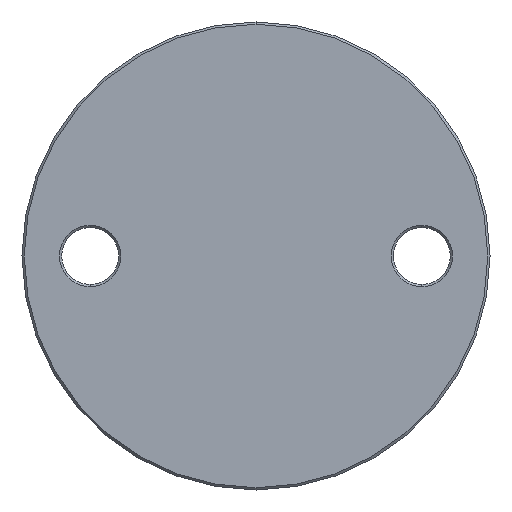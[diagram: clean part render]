
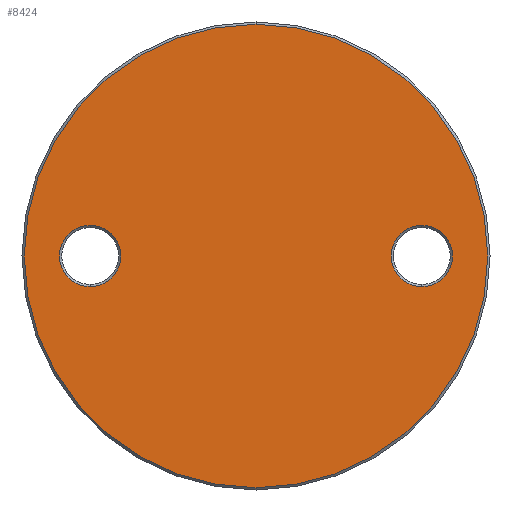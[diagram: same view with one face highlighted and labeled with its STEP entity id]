
A CAD part, front view. The second image highlights one B-rep face of the part: STEP entity #8424.
In plain terms, the highlighted planar face has unit normal (0, -1, 0).
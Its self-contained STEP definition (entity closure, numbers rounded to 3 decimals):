
#260 = VERTEX_POINT ( 'NONE', #4771 ) ;
#498 = VERTEX_POINT ( 'NONE', #11670 ) ;
#575 = DIRECTION ( 'NONE',  ( 0., 0., -1. ) ) ;
#651 = EDGE_CURVE ( 'NONE', #7422, #260, #1919, .T. ) ;
#724 = AXIS2_PLACEMENT_3D ( 'NONE', #1913, #11189, #8269 ) ;
#731 = EDGE_CURVE ( 'NONE', #8633, #3373, #5274, .T. ) ;
#869 = AXIS2_PLACEMENT_3D ( 'NONE', #10414, #9387, #8585 ) ;
#1043 = DIRECTION ( 'NONE',  ( 0., -1., 0. ) ) ;
#1334 = DIRECTION ( 'NONE',  ( 0., 1., 0. ) ) ;
#1356 = CIRCLE ( 'NONE', #869, 6.75 ) ;
#1632 = FACE_BOUND ( 'NONE', #4342, .T. ) ;
#1674 = ORIENTED_EDGE ( 'NONE', *, *, #11764, .T. ) ;
#1913 = CARTESIAN_POINT ( 'NONE',  ( 0., -3., 0. ) ) ;
#1919 = CIRCLE ( 'NONE', #9056, 6.75 ) ;
#2194 = ORIENTED_EDGE ( 'NONE', *, *, #731, .T. ) ;
#3050 = EDGE_LOOP ( 'NONE', ( #8132, #2194 ) ) ;
#3222 = EDGE_LOOP ( 'NONE', ( #1674, #4447 ) ) ;
#3254 = EDGE_CURVE ( 'NONE', #3373, #8633, #6330, .T. ) ;
#3373 = VERTEX_POINT ( 'NONE', #11033 ) ;
#3488 = DIRECTION ( 'NONE',  ( 0., 0., -1. ) ) ;
#3665 = CARTESIAN_POINT ( 'NONE',  ( -36.5, -3., 0. ) ) ;
#4333 = CARTESIAN_POINT ( 'NONE',  ( 0., -3., 51.5 ) ) ;
#4342 = EDGE_LOOP ( 'NONE', ( #11740, #6684 ) ) ;
#4401 = AXIS2_PLACEMENT_3D ( 'NONE', #8658, #1334, #8697 ) ;
#4447 = ORIENTED_EDGE ( 'NONE', *, *, #8220, .T. ) ;
#4771 = CARTESIAN_POINT ( 'NONE',  ( -36.5, -3., -6.75 ) ) ;
#5274 = CIRCLE ( 'NONE', #724, 51. ) ;
#6113 = DIRECTION ( 'NONE',  ( 0., 1., 0. ) ) ;
#6231 = DIRECTION ( 'NONE',  ( 0., 1., 0. ) ) ;
#6250 = VERTEX_POINT ( 'NONE', #9927 ) ;
#6330 = CIRCLE ( 'NONE', #11272, 51. ) ;
#6557 = CARTESIAN_POINT ( 'NONE',  ( 0., -3., 0. ) ) ;
#6684 = ORIENTED_EDGE ( 'NONE', *, *, #651, .T. ) ;
#7038 = PLANE ( 'NONE',  #10998 ) ;
#7141 = DIRECTION ( 'NONE',  ( 0., 0., -1. ) ) ;
#7153 = DIRECTION ( 'NONE',  ( 0., -1., 0. ) ) ;
#7313 = CARTESIAN_POINT ( 'NONE',  ( 0., -3., -51. ) ) ;
#7422 = VERTEX_POINT ( 'NONE', #10764 ) ;
#7439 = CIRCLE ( 'NONE', #10813, 6.75 ) ;
#8132 = ORIENTED_EDGE ( 'NONE', *, *, #3254, .T. ) ;
#8220 = EDGE_CURVE ( 'NONE', #6250, #498, #1356, .T. ) ;
#8269 = DIRECTION ( 'NONE',  ( 0., 0., -1. ) ) ;
#8424 = ADVANCED_FACE ( 'NONE', ( #8965, #1632, #10576 ), #7038, .T. ) ;
#8585 = DIRECTION ( 'NONE',  ( 0., 0., -1. ) ) ;
#8633 = VERTEX_POINT ( 'NONE', #7313 ) ;
#8658 = CARTESIAN_POINT ( 'NONE',  ( -36.5, -3., 0. ) ) ;
#8697 = DIRECTION ( 'NONE',  ( 0., 0., -1. ) ) ;
#8965 = FACE_BOUND ( 'NONE', #3222, .T. ) ;
#9056 = AXIS2_PLACEMENT_3D ( 'NONE', #3665, #6231, #7141 ) ;
#9096 = CIRCLE ( 'NONE', #4401, 6.75 ) ;
#9387 = DIRECTION ( 'NONE',  ( 0., 1., 0. ) ) ;
#9792 = EDGE_CURVE ( 'NONE', #260, #7422, #9096, .T. ) ;
#9927 = CARTESIAN_POINT ( 'NONE',  ( 36.5, -3., 6.75 ) ) ;
#10414 = CARTESIAN_POINT ( 'NONE',  ( 36.5, -3., 0. ) ) ;
#10493 = DIRECTION ( 'NONE',  ( 0., 0., -1. ) ) ;
#10576 = FACE_OUTER_BOUND ( 'NONE', #3050, .T. ) ;
#10764 = CARTESIAN_POINT ( 'NONE',  ( -36.5, -3., 6.75 ) ) ;
#10813 = AXIS2_PLACEMENT_3D ( 'NONE', #11623, #6113, #575 ) ;
#10998 = AXIS2_PLACEMENT_3D ( 'NONE', #4333, #7153, #3488 ) ;
#11033 = CARTESIAN_POINT ( 'NONE',  ( 0., -3., 51. ) ) ;
#11189 = DIRECTION ( 'NONE',  ( 0., -1., 0. ) ) ;
#11272 = AXIS2_PLACEMENT_3D ( 'NONE', #6557, #1043, #10493 ) ;
#11623 = CARTESIAN_POINT ( 'NONE',  ( 36.5, -3., 0. ) ) ;
#11670 = CARTESIAN_POINT ( 'NONE',  ( 36.5, -3., -6.75 ) ) ;
#11740 = ORIENTED_EDGE ( 'NONE', *, *, #9792, .T. ) ;
#11764 = EDGE_CURVE ( 'NONE', #498, #6250, #7439, .T. ) ;
